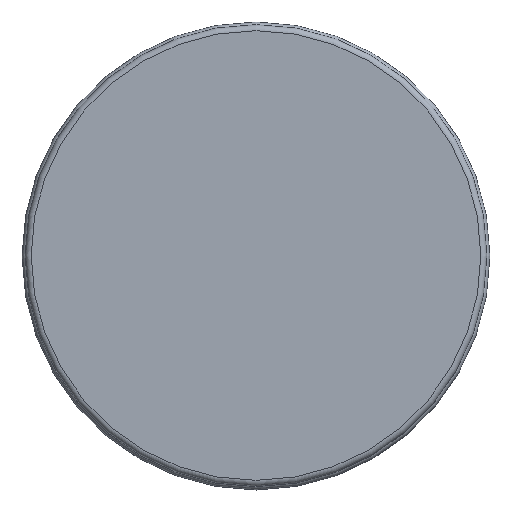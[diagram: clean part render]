
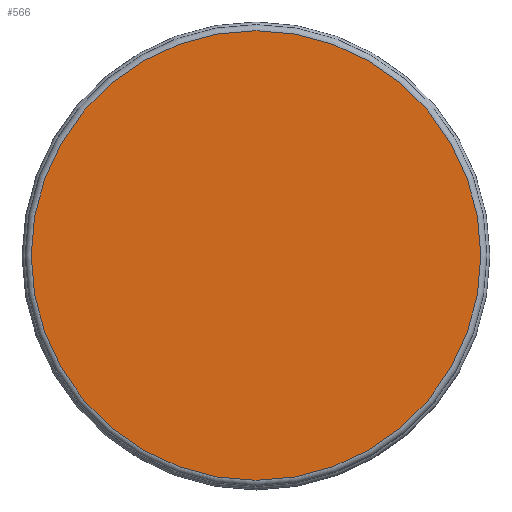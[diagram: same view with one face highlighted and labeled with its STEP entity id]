
A CAD part, top view. The second image highlights one B-rep face of the part: STEP entity #566.
In plain terms, the highlighted planar face has unit normal (0, 0, 1).
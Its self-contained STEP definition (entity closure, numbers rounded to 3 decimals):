
#566=ADVANCED_FACE('',(#1038),#1040,.T.);
#1038=FACE_BOUND('',#1039,.T.);
#1039=EDGE_LOOP('',(#1376));
#1040=PLANE('',#1041);
#1041=AXIS2_PLACEMENT_3D('',#1042,#1043,#1044);
#1042=CARTESIAN_POINT('',(0.,0.,53.));
#1043=DIRECTION('',(0.,0.,1.));
#1044=DIRECTION('',(-1.,0.,0.));
#1376=ORIENTED_EDGE('',*,*,#1542,.F.);
#1542=EDGE_CURVE('',#1825,#1825,#1826,.T.);
#1825=VERTEX_POINT('',#2508);
#1826=CIRCLE('',#2509,37.);
#2508=CARTESIAN_POINT('',(-37.,0.,53.));
#2509=AXIS2_PLACEMENT_3D('',#2510,#2511,#2512);
#2510=CARTESIAN_POINT('',(0.,0.,53.));
#2511=DIRECTION('',(0.,0.,-1.));
#2512=DIRECTION('',(-1.,0.,0.));
